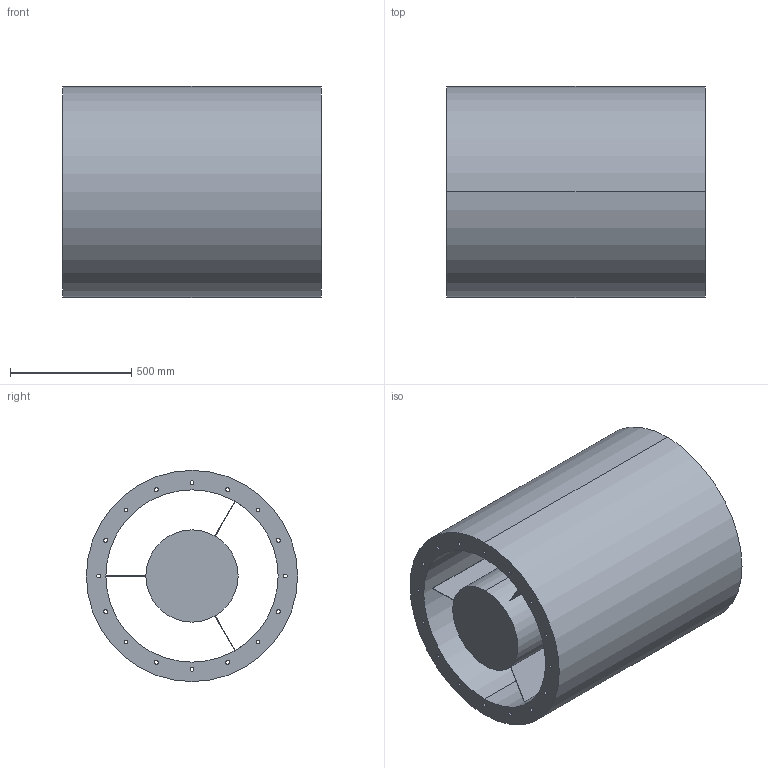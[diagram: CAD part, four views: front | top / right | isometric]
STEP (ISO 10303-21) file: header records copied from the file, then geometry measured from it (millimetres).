
FILE_DESCRIPTION(('STEP AP214'),'1');
FILE_NAME('accessory_5211815000.stp','2017-10-09T11:36:39',('TraceParts'),('TraceParts S.A.'),'Spatial InterOp 3D',' ',' ');
FILE_SCHEMA(('automotive_design'));
Length unit declared in the file: millimetre
Products named in the file (1): accessory_5211815000
Bounding box: 1065 x 870 x 870 mm (x, y, z)
Volume: 316152822.4 mm3; surface area: 8606294.7 mm2
Topology: 1 solids, 1 shells, 56 faces, 155 edges, 103 vertices
Faces by surface type: cylinder 38, plane 16, torus 2
Entity records: 2384 total; most frequent: DIRECTION 362, CARTESIAN_POINT 315, ORIENTED_EDGE 310, EDGE_CURVE 155, AXIS2_PLACEMENT_3D 150, VERTEX_POINT 103, EDGE_LOOP 96, CIRCLE 93
